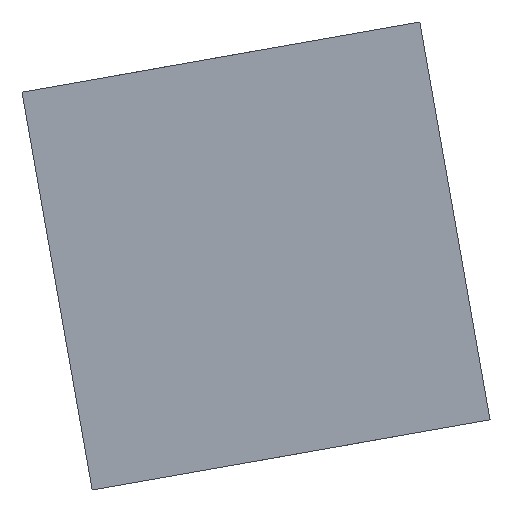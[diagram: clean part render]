
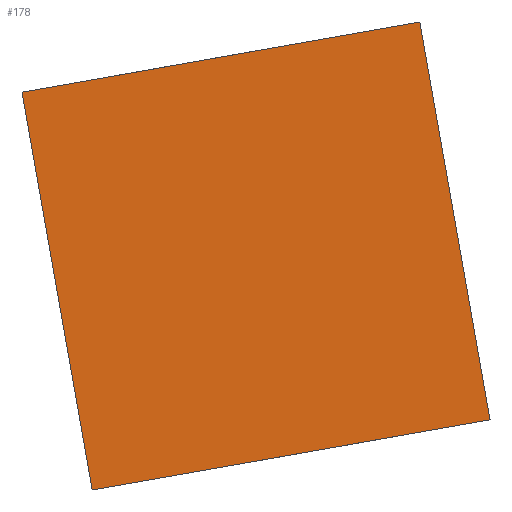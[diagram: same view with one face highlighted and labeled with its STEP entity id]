
A CAD part, left-side view. The second image highlights one B-rep face of the part: STEP entity #178.
In plain terms, the highlighted planar face has unit normal (-1, 0, 0).
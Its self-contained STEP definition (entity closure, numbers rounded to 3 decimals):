
#27=CARTESIAN_POINT('',(-274.5,-172.341,356.639));
#28=VERTEX_POINT('',#27);
#45=CARTESIAN_POINT('',(-274.5,-192.038,360.112));
#46=VERTEX_POINT('',#45);
#53=CARTESIAN_POINT('',(-274.5,-172.341,356.639));
#54=DIRECTION('',(0.0,-0.985,0.174));
#55=VECTOR('',#54,1.);
#56=LINE('',#53,#55);
#57=EDGE_CURVE('',#28,#46,#56,.T.);
#120=CARTESIAN_POINT('',(-274.5,-168.868,376.335));
#121=VERTEX_POINT('',#120);
#128=CARTESIAN_POINT('',(-274.5,-188.565,379.808));
#129=VERTEX_POINT('',#128);
#130=CARTESIAN_POINT('',(-274.5,-168.868,376.335));
#131=DIRECTION('',(0.0,-0.985,0.174));
#132=VECTOR('',#131,1.);
#133=LINE('',#130,#132);
#134=EDGE_CURVE('',#121,#129,#133,.T.);
#157=CARTESIAN_POINT('',(-274.5,-168.868,376.335));
#158=DIRECTION('',(-1.0,0.0,0.0));
#159=DIRECTION('',(0.0,-0.174,-0.985));
#160=AXIS2_PLACEMENT_3D('',#157,#158,#159);
#161=PLANE('',#160);
#162=CARTESIAN_POINT('',(-274.5,-168.868,376.335));
#163=DIRECTION('',(0.,-0.174,-0.985));
#164=VECTOR('',#163,1.);
#165=LINE('',#162,#164);
#166=EDGE_CURVE('',#121,#28,#165,.T.);
#167=ORIENTED_EDGE('',*,*,#166,.T.);
#168=ORIENTED_EDGE('',*,*,#57,.T.);
#169=CARTESIAN_POINT('',(-274.5,-188.565,379.808));
#170=DIRECTION('',(0.,-0.174,-0.985));
#171=VECTOR('',#170,1.);
#172=LINE('',#169,#171);
#173=EDGE_CURVE('',#129,#46,#172,.T.);
#174=ORIENTED_EDGE('',*,*,#173,.F.);
#175=ORIENTED_EDGE('',*,*,#134,.F.);
#176=EDGE_LOOP('',(#167,#168,#174,#175));
#177=FACE_BOUND('',#176,.T.);
#178=ADVANCED_FACE('',(#177),#161,.T.);
